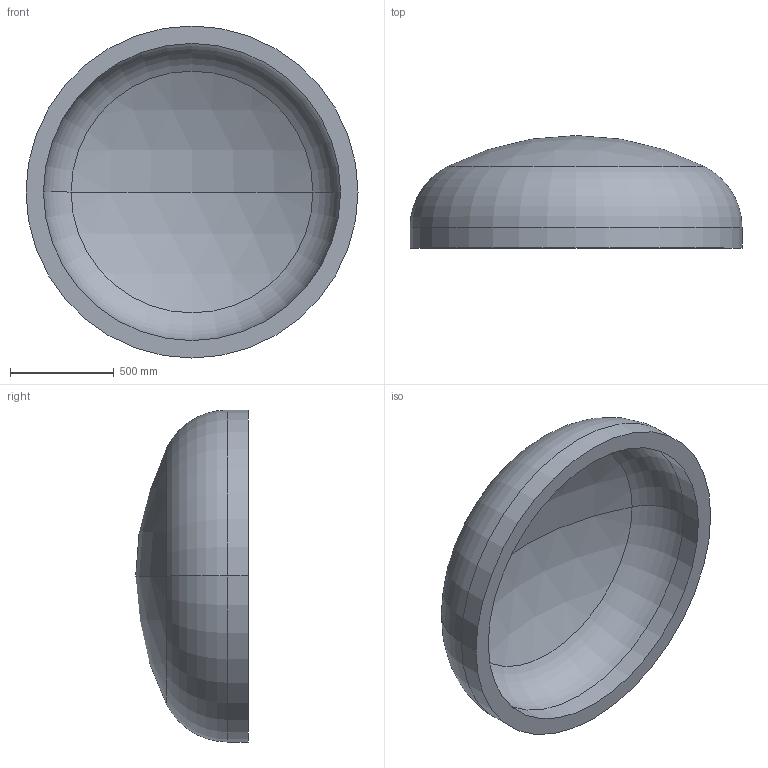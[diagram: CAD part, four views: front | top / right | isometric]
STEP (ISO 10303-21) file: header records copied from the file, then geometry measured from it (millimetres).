
FILE_DESCRIPTION (( 'STEP AP203' ), '1' );
FILE_NAME ('DIN 28013 Korbbogenform_-_Boden DIN 28013 - 1600 x 100 - I - s=84.step', '2016-07-01T11:26:21', ( '' ), ( '' ), 'SwSTEP 2.0', 'SolidWorks 2013', '' );
FILE_SCHEMA (( 'CONFIG_CONTROL_DESIGN' ));
Length unit declared in the file: millimetre
Products named in the file (1): DIN 28013 Korbbogenform_-_Boden DIN 28013 - 1600 x 100 - I - s=84
Bounding box: 1600 x 542.38 x 1600 mm (x, y, z)
Volume: 258434055.3 mm3; surface area: 6568031.2 mm2
Topology: 1 solids, 1 shells, 13 faces, 24 edges, 14 vertices
Faces by surface type: torus 4, cylinder 4, sphere 4, plane 1
Entity records: 407 total; most frequent: DIRECTION 72, CARTESIAN_POINT 52, ORIENTED_EDGE 48, AXIS2_PLACEMENT_3D 34, EDGE_CURVE 24, CIRCLE 20, EDGE_LOOP 14, VERTEX_POINT 14
